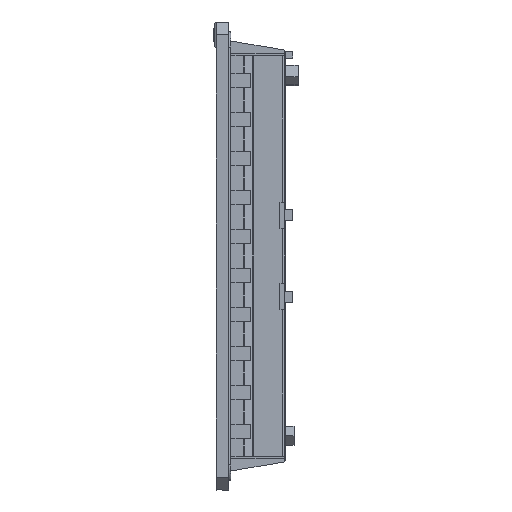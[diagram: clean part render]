
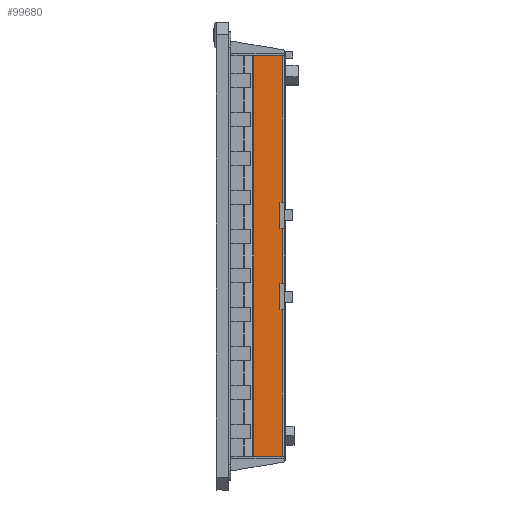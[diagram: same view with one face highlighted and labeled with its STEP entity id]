
A CAD part, left-side view. The second image highlights one B-rep face of the part: STEP entity #99680.
In plain terms, the highlighted planar face has unit normal (-1, 0, 0).
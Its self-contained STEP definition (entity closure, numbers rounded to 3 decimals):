
#174 = VECTOR ( 'NONE', #92783, 1000. ) ;
#1697 = EDGE_CURVE ( 'NONE', #12608, #79282, #12379, .T. ) ;
#4167 = AXIS2_PLACEMENT_3D ( 'NONE', #51941, #87765, #69244 ) ;
#4497 = CARTESIAN_POINT ( 'NONE',  ( -111.25, 16.717, -107.75 ) ) ;
#4832 = DIRECTION ( 'NONE',  ( 0., -1., 0. ) ) ;
#4920 = LINE ( 'NONE', #52962, #40924 ) ;
#5030 = VERTEX_POINT ( 'NONE', #63277 ) ;
#6096 = VECTOR ( 'NONE', #45099, 1000. ) ;
#7886 = CARTESIAN_POINT ( 'NONE',  ( -111.25, 2.365, 15. ) ) ;
#9212 = DIRECTION ( 'NONE',  ( 0., 0., 1. ) ) ;
#10588 = DIRECTION ( 'NONE',  ( 0., 0., 1. ) ) ;
#11679 = VERTEX_POINT ( 'NONE', #49543 ) ;
#12379 = LINE ( 'NONE', #77752, #40367 ) ;
#12608 = VERTEX_POINT ( 'NONE', #57136 ) ;
#15841 = CARTESIAN_POINT ( 'NONE',  ( -111.25, 1., -15. ) ) ;
#17303 = ORIENTED_EDGE ( 'NONE', *, *, #90697, .T. ) ;
#18017 = EDGE_CURVE ( 'NONE', #103960, #5030, #104479, .T. ) ;
#18480 = EDGE_CURVE ( 'NONE', #99676, #11679, #19836, .T. ) ;
#19240 = LINE ( 'NONE', #19850, #100569 ) ;
#19836 = LINE ( 'NONE', #57436, #96718 ) ;
#19850 = CARTESIAN_POINT ( 'NONE',  ( -111.25, 30., -107.75 ) ) ;
#19985 = CARTESIAN_POINT ( 'NONE',  ( -111.25, 1., 107.75 ) ) ;
#25369 = ORIENTED_EDGE ( 'NONE', *, *, #56428, .F. ) ;
#25902 = VECTOR ( 'NONE', #4832, 1000. ) ;
#26648 = CARTESIAN_POINT ( 'NONE',  ( -111.25, 2.365, 29. ) ) ;
#27485 = ORIENTED_EDGE ( 'NONE', *, *, #101040, .F. ) ;
#29387 = CARTESIAN_POINT ( 'NONE',  ( -111.25, 2.365, 29. ) ) ;
#34998 = EDGE_CURVE ( 'NONE', #79282, #61040, #65710, .T. ) ;
#36904 = VECTOR ( 'NONE', #76789, 1000. ) ;
#37002 = CARTESIAN_POINT ( 'NONE',  ( -111.25, 1., 107.75 ) ) ;
#39478 = CARTESIAN_POINT ( 'NONE',  ( -111.25, 2.365, -29. ) ) ;
#40108 = ORIENTED_EDGE ( 'NONE', *, *, #94366, .F. ) ;
#40367 = VECTOR ( 'NONE', #75946, 1000. ) ;
#40589 = DIRECTION ( 'NONE',  ( 0., -1., 0. ) ) ;
#40924 = VECTOR ( 'NONE', #118397, 1000. ) ;
#41488 = FACE_OUTER_BOUND ( 'NONE', #93432, .T. ) ;
#41778 = LINE ( 'NONE', #71354, #102634 ) ;
#45099 = DIRECTION ( 'NONE',  ( 0., -1., 0. ) ) ;
#46271 = EDGE_CURVE ( 'NONE', #108315, #81631, #4920, .T. ) ;
#46578 = CARTESIAN_POINT ( 'NONE',  ( -111.25, 2.365, 15. ) ) ;
#46922 = LINE ( 'NONE', #26648, #6096 ) ;
#48083 = ORIENTED_EDGE ( 'NONE', *, *, #34998, .T. ) ;
#49543 = CARTESIAN_POINT ( 'NONE',  ( -111.25, 16.717, 107.75 ) ) ;
#51941 = CARTESIAN_POINT ( 'NONE',  ( -111.25, 0., 107.75 ) ) ;
#52509 = VECTOR ( 'NONE', #105108, 1000. ) ;
#52962 = CARTESIAN_POINT ( 'NONE',  ( -111.25, 2.365, -15. ) ) ;
#55756 = CARTESIAN_POINT ( 'NONE',  ( -111.25, 1., 107.75 ) ) ;
#56428 = EDGE_CURVE ( 'NONE', #11679, #120846, #41778, .T. ) ;
#57136 = CARTESIAN_POINT ( 'NONE',  ( -111.25, 1., 15. ) ) ;
#57436 = CARTESIAN_POINT ( 'NONE',  ( -111.25, 16.717, 107.75 ) ) ;
#58044 = ORIENTED_EDGE ( 'NONE', *, *, #118849, .T. ) ;
#60523 = ORIENTED_EDGE ( 'NONE', *, *, #96796, .T. ) ;
#60602 = PLANE ( 'NONE',  #4167 ) ;
#61040 = VERTEX_POINT ( 'NONE', #29387 ) ;
#62568 = ORIENTED_EDGE ( 'NONE', *, *, #1697, .T. ) ;
#63277 = CARTESIAN_POINT ( 'NONE',  ( -111.25, 1., -29. ) ) ;
#65710 = LINE ( 'NONE', #46578, #36904 ) ;
#66903 = ORIENTED_EDGE ( 'NONE', *, *, #111467, .F. ) ;
#67475 = LINE ( 'NONE', #106912, #52509 ) ;
#69244 = DIRECTION ( 'NONE',  ( 0., -1., 0. ) ) ;
#70267 = VECTOR ( 'NONE', #85605, 1000. ) ;
#71354 = CARTESIAN_POINT ( 'NONE',  ( -111.25, 0., 107.75 ) ) ;
#71764 = CARTESIAN_POINT ( 'NONE',  ( -111.25, 1., -107.75 ) ) ;
#72566 = VECTOR ( 'NONE', #9212, 1000. ) ;
#75946 = DIRECTION ( 'NONE',  ( 0., 1., 0. ) ) ;
#76055 = VERTEX_POINT ( 'NONE', #15841 ) ;
#76789 = DIRECTION ( 'NONE',  ( 0., 0., 1. ) ) ;
#77752 = CARTESIAN_POINT ( 'NONE',  ( -111.25, 2.365, 15. ) ) ;
#79282 = VERTEX_POINT ( 'NONE', #7886 ) ;
#79358 = CARTESIAN_POINT ( 'NONE',  ( -111.25, 2.365, -15. ) ) ;
#79550 = ORIENTED_EDGE ( 'NONE', *, *, #18017, .T. ) ;
#81631 = VERTEX_POINT ( 'NONE', #39478 ) ;
#83170 = LINE ( 'NONE', #102916, #70267 ) ;
#85605 = DIRECTION ( 'NONE',  ( 0., 1., 0. ) ) ;
#87765 = DIRECTION ( 'NONE',  ( -1., 0., 0. ) ) ;
#88960 = ORIENTED_EDGE ( 'NONE', *, *, #46271, .F. ) ;
#89312 = CARTESIAN_POINT ( 'NONE',  ( -111.25, 2.365, -29. ) ) ;
#90697 = EDGE_CURVE ( 'NONE', #61040, #116004, #46922, .T. ) ;
#92783 = DIRECTION ( 'NONE',  ( 0., 0., 1. ) ) ;
#93432 = EDGE_LOOP ( 'NONE', ( #58044, #62568, #48083, #17303, #60523, #25369, #100899, #27485, #79550, #66903, #88960, #40108 ) ) ;
#94366 = EDGE_CURVE ( 'NONE', #76055, #108315, #83170, .T. ) ;
#96718 = VECTOR ( 'NONE', #10588, 1000. ) ;
#96796 = EDGE_CURVE ( 'NONE', #116004, #120846, #121490, .T. ) ;
#99676 = VERTEX_POINT ( 'NONE', #4497 ) ;
#99680 = ADVANCED_FACE ( 'NONE', ( #41488 ), #60602, .T. ) ;
#100569 = VECTOR ( 'NONE', #104963, 1000. ) ;
#100899 = ORIENTED_EDGE ( 'NONE', *, *, #18480, .F. ) ;
#101040 = EDGE_CURVE ( 'NONE', #103960, #99676, #19240, .T. ) ;
#102506 = CARTESIAN_POINT ( 'NONE',  ( -111.25, 1., 29. ) ) ;
#102634 = VECTOR ( 'NONE', #40589, 1000. ) ;
#102916 = CARTESIAN_POINT ( 'NONE',  ( -111.25, 2.365, -15. ) ) ;
#103960 = VERTEX_POINT ( 'NONE', #71764 ) ;
#104479 = LINE ( 'NONE', #19985, #174 ) ;
#104963 = DIRECTION ( 'NONE',  ( 0., 1., 0. ) ) ;
#105108 = DIRECTION ( 'NONE',  ( 0., 0., 1. ) ) ;
#106912 = CARTESIAN_POINT ( 'NONE',  ( -111.25, 1., 107.75 ) ) ;
#108315 = VERTEX_POINT ( 'NONE', #79358 ) ;
#111467 = EDGE_CURVE ( 'NONE', #81631, #5030, #118922, .T. ) ;
#116004 = VERTEX_POINT ( 'NONE', #102506 ) ;
#118397 = DIRECTION ( 'NONE',  ( 0., 0., -1. ) ) ;
#118849 = EDGE_CURVE ( 'NONE', #76055, #12608, #67475, .T. ) ;
#118922 = LINE ( 'NONE', #89312, #25902 ) ;
#120846 = VERTEX_POINT ( 'NONE', #55756 ) ;
#121490 = LINE ( 'NONE', #37002, #72566 ) ;
